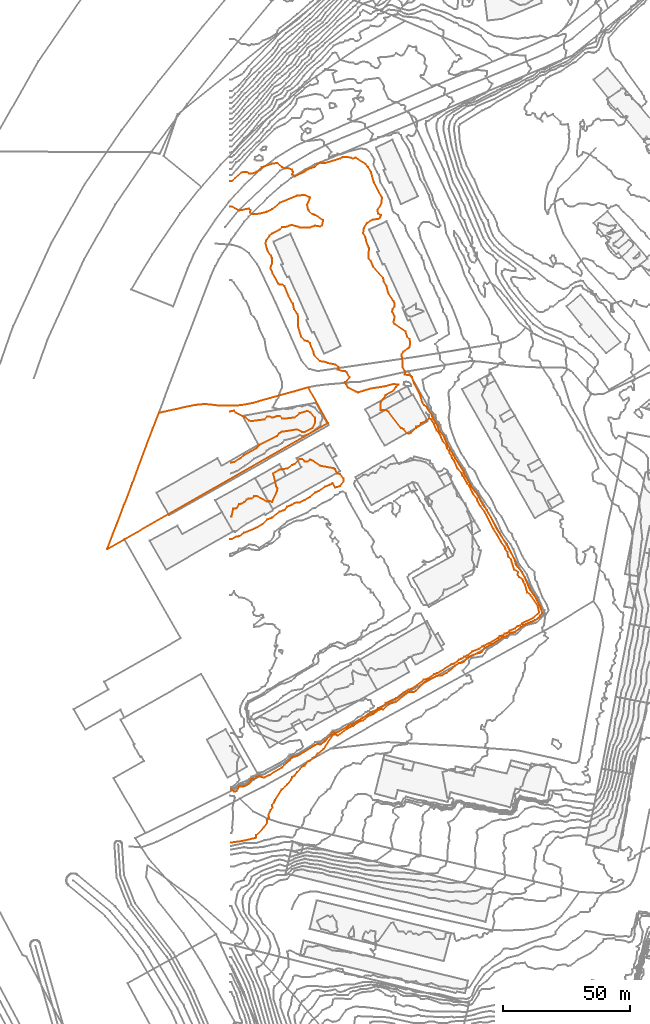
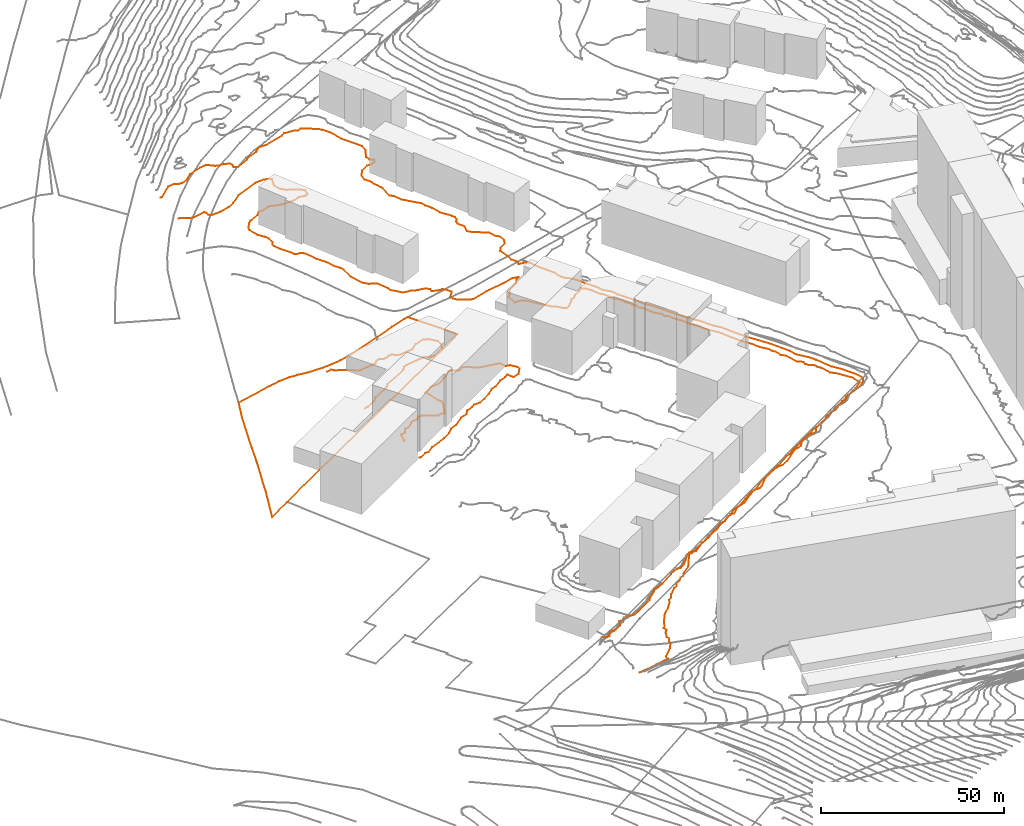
# Not in any storey, part 131 of 419: 5 proxies.
"""IFC2X3 model written with IfcOpenShell, lengths in metres."""

from ifc_helpers import new_model, entity, si_unit, frame, origin_with_axes, place, context, subcontext, project, element, save


model = new_model("IFC2X3")

# Units and contexts
model_context = context("Model", 3, precision=1e-05, world=origin_with_axes())
body_context = subcontext(model_context, "Body", "Model", "MODEL_VIEW")
ifc_project = project(units=[si_unit("AREAUNIT", "SQUARE_METRE"), si_unit("LENGTHUNIT", "METRE")], contexts=[model_context])

# Proxies
proxy_1_placement = place(None, frame((-49.1179795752, 479.9076909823, 9.6545002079), z_axis=(0.0, 0.0, 1.0), x_axis=(1.0, 0.0, 0.0)))
element("IfcBuildingElementProxy", 1, at=proxy_1_placement, Name="Cadastre 328", ObjectType="NOTDEFINED", context=body_context, shape_type="GeometricCurveSet", body=[
    entity("IfcGeometricCurveSet", [entity("IfcPolyline", [entity("IfcCartesianPoint", [6.9, 3.9400000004, 0.24]), entity("IfcCartesianPoint", [0.0, 0.0, 0.0]), entity("IfcCartesianPoint", [2.23, 5.8200000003, 0.5350996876]), entity("IfcCartesianPoint", [3.62, 9.2800000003, 0.4764995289]), entity("IfcCartesianPoint", [4.0499999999, 10.3500000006, 0.4382998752]), entity("IfcCartesianPoint", [6.61, 17.2300000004, 0.243300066]), entity("IfcCartesianPoint", [7.01, 18.1600000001, 0.1551002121]), entity("IfcCartesianPoint", [9.62, 25.0100000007, -0.2845003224]), entity("IfcCartesianPoint", [10.02, 26.0700000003, -0.2961000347]), entity("IfcCartesianPoint", [12.54, 32.8400000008, -1.2284998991]), entity("IfcCartesianPoint", [18.09, 47.7800000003, -2.1045000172]), entity("IfcCartesianPoint", [20.5699999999, 53.9400000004, -1.7440002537]), entity("IfcCartesianPoint", [31.77, 56.4100000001, -1.6053000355]), entity("IfcCartesianPoint", [35.16, 57.0800000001, -1.6221998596]), entity("IfcCartesianPoint", [38.59, 57.3700000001, -1.6308997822]), entity("IfcCartesianPoint", [41.35, 57.1200000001, -1.6233998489]), entity("IfcCartesianPoint", [44.08, 56.7600000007, -1.6125999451]), entity("IfcCartesianPoint", [48.46, 56.7000000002, -1.6107999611]), entity("IfcCartesianPoint", [51.61, 56.8300000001, -1.5487603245]), entity("IfcCartesianPoint", [54.6699999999, 57.21, -1.4915882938]), entity("IfcCartesianPoint", [57.6899999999, 57.8500000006, -1.4473162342]), entity("IfcCartesianPoint", [73.91, 62.4100000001, -0.2535403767]), entity("IfcCartesianPoint", [78.41, 63.71, -0.0105405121]), entity("IfcCartesianPoint", [79.6, 63.96, 0.0184144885]), entity("IfcCartesianPoint", [87.38, 49.9300000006, 0.1054959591]), entity("IfcCartesianPoint", [6.9, 3.9400000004, 0.24])])]),
])
proxy_2_placement = place(None, frame((-0.4079795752, 514.05769083, 8.0), z_axis=(0.0, 0.0, 1.0), x_axis=(1.0, 0.0, 0.0)))
element("IfcBuildingElementProxy", 2, at=proxy_2_placement, Name="Contour 8.0 m", ObjectType="NOTDEFINED", context=body_context, shape_type="GeometricCurveSet", body=[
    entity("IfcGeometricCurveSet", [entity("IfcPolyline", [entity("IfcCartesianPoint", [0.0, 0.0, 0.0]), entity("IfcCartesianPoint", [1.5, 0.3955553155, 0.0]), entity("IfcCartesianPoint", [4.1428566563, 1.8400001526, 0.0]), entity("IfcCartesianPoint", [5.5, 3.1399977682, 0.0]), entity("IfcCartesianPoint", [10.5, 5.804285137, 0.0]), entity("IfcCartesianPoint", [11.5, 7.0542841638, 0.0]), entity("IfcCartesianPoint", [18.5, 10.6399993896, 0.0]), entity("IfcCartesianPoint", [19.5, 11.8650007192, 0.0]), entity("IfcCartesianPoint", [20.5, 12.3105883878, 0.0]), entity("IfcCartesianPoint", [26.5, 13.2073475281, 0.0]), entity("IfcCartesianPoint", [28.5, 12.1557900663, 0.0]), entity("IfcCartesianPoint", [29.5, 12.2084211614, 0.0]), entity("IfcCartesianPoint", [32.5, 13.7542859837, 0.0]), entity("IfcCartesianPoint", [33.6041669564, 15.8400001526, 0.0]), entity("IfcCartesianPoint", [33.5645160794, 17.8400001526, 0.0]), entity("IfcCartesianPoint", [31.8478264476, 19.8400001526, 0.0]), entity("IfcCartesianPoint", [30.5, 20.5400005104, 0.0]), entity("IfcCartesianPoint", [27.5, 19.6092295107, 0.0]), entity("IfcCartesianPoint", [25.5, 17.9471436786, 0.0]), entity("IfcCartesianPoint", [21.5, 17.4696289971, 0.0]), entity("IfcCartesianPoint", [20.5, 17.5899986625, 0.0]), entity("IfcCartesianPoint", [19.5, 18.5542858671, 0.0]), entity("IfcCartesianPoint", [18.5, 18.56413831, 0.0]), entity("IfcCartesianPoint", [17.5, 18.0185724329, 0.0]), entity("IfcCartesianPoint", [16.5, 17.8722589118, 0.0]), entity("IfcCartesianPoint", [15.5, 18.3854535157, 0.0]), entity("IfcCartesianPoint", [14.5, 18.2775003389, 0.0]), entity("IfcCartesianPoint", [13.5, 17.1733334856, 0.0]), entity("IfcCartesianPoint", [8.5, 16.5066668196, 0.0]), entity("IfcCartesianPoint", [7.5, 16.6399963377, 0.0]), entity("IfcCartesianPoint", [6.1250029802, 17.8400001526, 0.0]), entity("IfcCartesianPoint", [2.2142818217, 19.8400001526, 0.0]), entity("IfcCartesianPoint", [1.5, 20.6733308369, 0.0]), entity("IfcCartesianPoint", [0.0, 20.3399876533, 0.0])])]),
])
proxy_3_placement = place(None, frame((-0.4079795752, 483.8500708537, 10.0), z_axis=(0.0, 0.0, 1.0), x_axis=(1.0, 0.0, 0.0)))
element("IfcBuildingElementProxy", 3, at=proxy_3_placement, Name="Contour 10.0 m", ObjectType="NOTDEFINED", context=body_context, shape_type="GeometricCurveSet", body=[
    entity("IfcGeometricCurveSet", [entity("IfcPolyline", [entity("IfcCartesianPoint", [0.0, 9.0476701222, 0.0]), entity("IfcCartesianPoint", [0.5, 9.0476701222, 0.0]), entity("IfcCartesianPoint", [1.2272743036, 12.0476201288, 0.0]), entity("IfcCartesianPoint", [2.5, 12.2476239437, 0.0]), entity("IfcCartesianPoint", [3.5, 13.9047610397, 0.0]), entity("IfcCartesianPoint", [4.5, 14.0476301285, 0.0]), entity("IfcCartesianPoint", [5.5, 14.6190506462, 0.0]), entity("IfcCartesianPoint", [6.5, 15.6726231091, 0.0]), entity("IfcCartesianPoint", [7.2499940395, 16.0476201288, 0.0]), entity("IfcCartesianPoint", [8.5, 16.0476326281, 0.0]), entity("IfcCartesianPoint", [9.5, 17.0476401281, 0.0]), entity("IfcCartesianPoint", [10.5, 17.124544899, 0.0]), entity("IfcCartesianPoint", [14.5, 14.847616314, 0.0]), entity("IfcCartesianPoint", [15.5, 15.190479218, 0.0]), entity("IfcCartesianPoint", [16.5, 14.7142867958, 0.0]), entity("IfcCartesianPoint", [18.5, 19.0476701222, 0.0]), entity("IfcCartesianPoint", [18.6818213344, 20.0476201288, 0.0]), entity("IfcCartesianPoint", [18.2142818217, 21.0476201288, 0.0]), entity("IfcCartesianPoint", [16.9999875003, 26.0476201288, 0.0]), entity("IfcCartesianPoint", [19.5, 27.5476256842, 0.0]), entity("IfcCartesianPoint", [22.5, 27.9567090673, 0.0]), entity("IfcCartesianPoint", [24.5, 29.3809552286, 0.0]), entity("IfcCartesianPoint", [25.5, 29.7748912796, 0.0]), entity("IfcCartesianPoint", [27.5, 31.7698417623, 0.0]), entity("IfcCartesianPoint", [28.5, 31.6476201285, 0.0]), entity("IfcCartesianPoint", [29.5, 30.8095240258, 0.0]), entity("IfcCartesianPoint", [30.5, 30.6190506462, 0.0]), entity("IfcCartesianPoint", [31.5, 31.4761896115, 0.0]), entity("IfcCartesianPoint", [32.5, 31.1385307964, 0.0]), entity("IfcCartesianPoint", [35.5, 29.0476451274, 0.0]), entity("IfcCartesianPoint", [41.0000499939, 28.0476201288, 0.0]), entity("IfcCartesianPoint", [41.5, 27.7976141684, 0.0]), entity("IfcCartesianPoint", [42.2272743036, 26.0476201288, 0.0]), entity("IfcCartesianPoint", [43.5, 25.7142867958, 0.0]), entity("IfcCartesianPoint", [44.8030315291, 24.0476201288, 0.0]), entity("IfcCartesianPoint", [44.8666664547, 23.0476201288, 0.0]), entity("IfcCartesianPoint", [43.4166646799, 21.0476201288, 0.0]), entity("IfcCartesianPoint", [41.5, 20.4285720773, 0.0]), entity("IfcCartesianPoint", [40.5, 22.2619048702, 0.0]), entity("IfcCartesianPoint", [39.5, 21.5314906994, 0.0]), entity("IfcCartesianPoint", [37.5, 20.8253967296, 0.0]), entity("IfcCartesianPoint", [35.0000083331, 19.0476201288, 0.0]), entity("IfcCartesianPoint", [33.5, 18.5314906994, 0.0]), entity("IfcCartesianPoint", [31.5, 16.7047627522, 0.0]), entity("IfcCartesianPoint", [29.5, 15.5976200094, 0.0]), entity("IfcCartesianPoint", [27.5, 14.5809531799, 0.0]), entity("IfcCartesianPoint", [25.5, 14.3809545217, 0.0]), entity("IfcCartesianPoint", [24.5, 13.6904767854, 0.0]), entity("IfcCartesianPoint", [22.5, 12.9226178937, 0.0]), entity("IfcCartesianPoint", [21.5, 11.5476145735, 0.0]), entity("IfcCartesianPoint", [19.5, 10.9299704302, 0.0]), entity("IfcCartesianPoint", [16.5, 8.5476159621, 0.0]), entity("IfcCartesianPoint", [14.5, 7.7619038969, 0.0]), entity("IfcCartesianPoint", [12.804347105, 6.0476201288, 0.0]), entity("IfcCartesianPoint", [10.5, 4.6536802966, 0.0]), entity("IfcCartesianPoint", [5.5, 2.5960067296, 0.0]), entity("IfcCartesianPoint", [3.5, 1.1809560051, 0.0]), entity("IfcCartesianPoint", [2.5, 1.1385311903, 0.0]), entity("IfcCartesianPoint", [0.5, 0.0, 0.0]), entity("IfcCartesianPoint", [0.0, 0.0, 0.0])])]),
])
proxy_4_placement = place(None, frame((-0.4079795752, 384.9293366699, 10.0), z_axis=(0.0, 0.0, 1.0), x_axis=(1.0, 0.0, 0.0)))
element("IfcBuildingElementProxy", 4, at=proxy_4_placement, Name="Contour 10.0 m", ObjectType="NOTDEFINED", context=body_context, shape_type="GeometricCurveSet", body=[
    entity("IfcGeometricCurveSet", [entity("IfcPolyline", [entity("IfcCartesianPoint", [0.0, 0.0, 0.0]), entity("IfcCartesianPoint", [0.6492542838, -0.0316456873, 0.0]), entity("IfcCartesianPoint", [1.5, -0.7916452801, 0.0]), entity("IfcCartesianPoint", [2.5, -0.5992135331, 0.0]), entity("IfcCartesianPoint", [3.5, 1.177656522, 0.0]), entity("IfcCartesianPoint", [5.5, 1.3223365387, 0.0]), entity("IfcCartesianPoint", [7.5, 2.3699291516, 0.0]), entity("IfcCartesianPoint", [8.0390073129, 2.9683543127, 0.0]), entity("IfcCartesianPoint", [8.2239584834, 3.9683543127, 0.0]), entity("IfcCartesianPoint", [8.5, 4.1891875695, 0.0]), entity("IfcCartesianPoint", [9.5, 4.2160611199, 0.0]), entity("IfcCartesianPoint", [10.3631577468, 4.9683543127, 0.0]), entity("IfcCartesianPoint", [11.5, 5.4298930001, 0.0]), entity("IfcCartesianPoint", [12.5, 4.8902290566, 0.0]), entity("IfcCartesianPoint", [13.5, 4.8372068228, 0.0]), entity("IfcCartesianPoint", [15.5, 5.8298926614, 0.0]), entity("IfcCartesianPoint", [20.5, 8.7808546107, 0.0]), entity("IfcCartesianPoint", [21.5, 9.9891881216, 0.0]), entity("IfcCartesianPoint", [23.5, 11.5560735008, 0.0]), entity("IfcCartesianPoint", [24.4714288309, 12.9683543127, 0.0]), entity("IfcCartesianPoint", [25.5, 12.988488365, 0.0]), entity("IfcCartesianPoint", [27.5, 13.8159735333, 0.0]), entity("IfcCartesianPoint", [33.5, 17.6350209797, 0.0]), entity("IfcCartesianPoint", [34.5, 18.0548929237, 0.0]), entity("IfcCartesianPoint", [35.5, 17.7875032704, 0.0]), entity("IfcCartesianPoint", [35.8469390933, 17.9683543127, 0.0]), entity("IfcCartesianPoint", [37.5, 19.1433546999, 0.0]), entity("IfcCartesianPoint", [40.5, 22.4984749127, 0.0]), entity("IfcCartesianPoint", [42.5, 22.6599430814, 0.0]), entity("IfcCartesianPoint", [46.5, 25.1545614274, 0.0]), entity("IfcCartesianPoint", [48.3550720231, 25.9683543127, 0.0]), entity("IfcCartesianPoint", [52.5, 28.4583540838, 0.0]), entity("IfcCartesianPoint", [55.5, 30.643793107, 0.0]), entity("IfcCartesianPoint", [56.5, 30.8254972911, 0.0]), entity("IfcCartesianPoint", [58.5, 32.2410816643, 0.0]), entity("IfcCartesianPoint", [60.1750001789, 32.9683543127, 0.0]), entity("IfcCartesianPoint", [61.5, 34.2023970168, 0.0]), entity("IfcCartesianPoint", [65.5, 36.1464365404, 0.0]), entity("IfcCartesianPoint", [68.5, 38.3774454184, 0.0]), entity("IfcCartesianPoint", [70.5, 39.5271778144, 0.0]), entity("IfcCartesianPoint", [71.9242435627, 39.9683543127, 0.0]), entity("IfcCartesianPoint", [76.5, 43.4031368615, 0.0]), entity("IfcCartesianPoint", [78.1521742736, 43.9683543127, 0.0]), entity("IfcCartesianPoint", [80.5, 45.5770496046, 0.0]), entity("IfcCartesianPoint", [81.7391296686, 45.9683543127, 0.0]), entity("IfcCartesianPoint", [87.5, 49.5516876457, 0.0]), entity("IfcCartesianPoint", [88.5, 49.8858801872, 0.0]), entity("IfcCartesianPoint", [90.5, 51.4254974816, 0.0]), entity("IfcCartesianPoint", [91.5, 51.7138083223, 0.0]), entity("IfcCartesianPoint", [92.5, 52.5324570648, 0.0]), entity("IfcCartesianPoint", [93.5819674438, 52.9683543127, 0.0]), entity("IfcCartesianPoint", [95.5, 54.5239098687, 0.0]), entity("IfcCartesianPoint", [98.5, 55.7042030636, 0.0]), entity("IfcCartesianPoint", [99.5, 56.5899748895, 0.0]), entity("IfcCartesianPoint", [102.5454555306, 57.9683543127, 0.0]), entity("IfcCartesianPoint", [105.8461541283, 59.9683543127, 0.0]), entity("IfcCartesianPoint", [106.5, 60.6483546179, 0.0]), entity("IfcCartesianPoint", [107.7388057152, 60.9683543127, 0.0]), entity("IfcCartesianPoint", [108.5, 61.707484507, 0.0]), entity("IfcCartesianPoint", [109.5, 61.8559943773, 0.0]), entity("IfcCartesianPoint", [110.5, 62.8468588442, 0.0]), entity("IfcCartesianPoint", [112.5, 63.7097342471, 0.0]), entity("IfcCartesianPoint", [113.5, 64.5999324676, 0.0]), entity("IfcCartesianPoint", [114.5, 64.8592634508, 0.0]), entity("IfcCartesianPoint", [115.5, 65.8383541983, 0.0]), entity("IfcCartesianPoint", [119.794118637, 67.9683543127, 0.0]), entity("IfcCartesianPoint", [122.1153834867, 69.9683543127, 0.0]), entity("IfcCartesianPoint", [121.5, 72.7918853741, 0.0]), entity("IfcCartesianPoint", [118.6636365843, 76.9683543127, 0.0]), entity("IfcCartesianPoint", [117.3888896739, 77.9683543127, 0.0]), entity("IfcCartesianPoint", [116.5, 81.0373211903, 0.0]), entity("IfcCartesianPoint", [115.8414635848, 81.9683543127, 0.0]), entity("IfcCartesianPoint", [115.6200002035, 82.9683543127, 0.0]), entity("IfcCartesianPoint", [114.1874985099, 83.9683543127, 0.0]), entity("IfcCartesianPoint", [113.5909110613, 84.9683543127, 0.0]), entity("IfcCartesianPoint", [113.7343746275, 85.9683543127, 0.0]), entity("IfcCartesianPoint", [112.2096773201, 86.9683543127, 0.0]), entity("IfcCartesianPoint", [110.9838705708, 90.9683543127, 0.0]), entity("IfcCartesianPoint", [109.9444448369, 91.9683543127, 0.0]), entity("IfcCartesianPoint", [109.5158733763, 93.9683543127, 0.0]), entity("IfcCartesianPoint", [108.745614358, 94.9683543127, 0.0]), entity("IfcCartesianPoint", [108.5123459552, 95.9683543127, 0.0]), entity("IfcCartesianPoint", [106.9565217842, 97.9683543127, 0.0]), entity("IfcCartesianPoint", [105.5, 100.8083544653, 0.0]), entity("IfcCartesianPoint", [104.0161294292, 102.9683543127, 0.0]), entity("IfcCartesianPoint", [100.5253170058, 109.9683543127, 0.0]), entity("IfcCartesianPoint", [98.9599990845, 111.9683543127, 0.0]), entity("IfcCartesianPoint", [97.7954544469, 113.9683543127, 0.0]), entity("IfcCartesianPoint", [97.5, 115.038529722, 0.0]), entity("IfcCartesianPoint", [95.9285720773, 116.9683543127, 0.0]), entity("IfcCartesianPoint", [94.5, 120.137846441, 0.0]), entity("IfcCartesianPoint", [93.6967212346, 120.9683543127, 0.0]), entity("IfcCartesianPoint", [92.5, 123.3121035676, 0.0]), entity("IfcCartesianPoint", [91.7758618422, 123.9683543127, 0.0]), entity("IfcCartesianPoint", [91.5, 125.0973862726, 0.0]), entity("IfcCartesianPoint", [89.8333298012, 126.9683543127, 0.0]), entity("IfcCartesianPoint", [88.5, 130.0553107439, 0.0]), entity("IfcCartesianPoint", [87.6599998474, 130.9683543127, 0.0]), entity("IfcCartesianPoint", [87.5, 132.056588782, 0.0]), entity("IfcCartesianPoint", [86.7250000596, 132.9683543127, 0.0]), entity("IfcCartesianPoint", [86.5462964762, 133.9683543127, 0.0]), entity("IfcCartesianPoint", [85.6323531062, 134.9683543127, 0.0]), entity("IfcCartesianPoint", [85.5441179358, 135.9683543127, 0.0]), entity("IfcCartesianPoint", [83.9250005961, 137.9683543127, 0.0]), entity("IfcCartesianPoint", [82.6047616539, 140.9683543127, 0.0]), entity("IfcCartesianPoint", [81.6261263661, 141.9683543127, 0.0]), entity("IfcCartesianPoint", [80.5, 144.6025014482, 0.0]), entity("IfcCartesianPoint", [79.5, 146.1588302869, 0.0]), entity("IfcCartesianPoint", [78.5, 146.7683504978, 0.0]), entity("IfcCartesianPoint", [77.5, 145.801684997, 0.0]), entity("IfcCartesianPoint", [75.5, 144.7683504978, 0.0]), entity("IfcCartesianPoint", [74.5, 143.6350156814, 0.0]), entity("IfcCartesianPoint", [73.5, 143.4683043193, 0.0]), entity("IfcCartesianPoint", [73.3888865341, 142.9683543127, 0.0]), entity("IfcCartesianPoint", [71.5, 141.0553126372, 0.0]), entity("IfcCartesianPoint", [70.5, 140.6205278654, 0.0]), entity("IfcCartesianPoint", [69.7727256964, 140.9683543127, 0.0]), entity("IfcCartesianPoint", [68.5, 142.4683043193, 0.0]), entity("IfcCartesianPoint", [67.4999666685, 142.9683543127, 0.0]), entity("IfcCartesianPoint", [62.5, 149.3016876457, 0.0]), entity("IfcCartesianPoint", [61.5, 149.9682543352, 0.0]), entity("IfcCartesianPoint", [59.4999000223, 149.9683543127, 0.0]), entity("IfcCartesianPoint", [59.3888865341, 152.9683543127, 0.0]), entity("IfcCartesianPoint", [60.5, 154.2350214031, 0.0]), entity("IfcCartesianPoint", [61.3666641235, 155.9683543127, 0.0]), entity("IfcCartesianPoint", [64.5, 157.7183543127, 0.0]), entity("IfcCartesianPoint", [65.5, 159.1683581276, 0.0]), entity("IfcCartesianPoint", [66.4999750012, 159.9683543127, 0.0]), entity("IfcCartesianPoint", [64.5, 160.3145084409, 0.0]), entity("IfcCartesianPoint", [61.5, 159.4445465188, 0.0]), entity("IfcCartesianPoint", [55.5, 158.4683497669, 0.0]), entity("IfcCartesianPoint", [50.5, 156.9683476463, 0.0]), entity("IfcCartesianPoint", [49.5, 157.3254976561, 0.0]), entity("IfcCartesianPoint", [46.5, 158.9682543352, 0.0]), entity("IfcCartesianPoint", [45.9000076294, 159.9683543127, 0.0]), entity("IfcCartesianPoint", [45.4999000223, 160.9683543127, 0.0]), entity("IfcCartesianPoint", [47.2000009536, 162.9683543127, 0.0]), entity("IfcCartesianPoint", [45.9999500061, 164.9683543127, 0.0]), entity("IfcCartesianPoint", [45.5, 165.3016876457, 0.0]), entity("IfcCartesianPoint", [44.5, 165.3016876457, 0.0]), entity("IfcCartesianPoint", [42.4999666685, 165.9683543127, 0.0]), entity("IfcCartesianPoint", [42.8333333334, 166.9683543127, 0.0]), entity("IfcCartesianPoint", [41.4999666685, 167.9683543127, 0.0]), entity("IfcCartesianPoint", [38.5, 168.5516856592, 0.0]), entity("IfcCartesianPoint", [37.7857181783, 168.9683543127, 0.0]), entity("IfcCartesianPoint", [35.5, 169.2760460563, 0.0]), entity("IfcCartesianPoint", [33.0999984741, 171.9683543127, 0.0]), entity("IfcCartesianPoint", [32.9516133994, 172.9683543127, 0.0]), entity("IfcCartesianPoint", [31.5, 176.4540682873, 0.0]), entity("IfcCartesianPoint", [30.5, 177.2064504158, 0.0]), entity("IfcCartesianPoint", [29.5, 177.468350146, 0.0]), entity("IfcCartesianPoint", [28.0799999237, 178.9683543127, 0.0]), entity("IfcCartesianPoint", [26.8793108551, 182.9683543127, 0.0]), entity("IfcCartesianPoint", [26.9, 186.9683543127, 0.0]), entity("IfcCartesianPoint", [26.5624995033, 187.9683543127, 0.0]), entity("IfcCartesianPoint", [25.2714290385, 189.9683543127, 0.0]), entity("IfcCartesianPoint", [24.7903226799, 191.9683543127, 0.0]), entity("IfcCartesianPoint", [23.0600013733, 194.9683543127, 0.0]), entity("IfcCartesianPoint", [21.5, 198.8969242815, 0.0]), entity("IfcCartesianPoint", [20.5, 199.635019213, 0.0]), entity("IfcCartesianPoint", [19.5, 199.6350209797, 0.0]), entity("IfcCartesianPoint", [19.0294124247, 199.9683543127, 0.0]), entity("IfcCartesianPoint", [16.8548392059, 203.9683543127, 0.0]), entity("IfcCartesianPoint", [15.9999975, 205.9683543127, 0.0]), entity("IfcCartesianPoint", [16.0862072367, 206.9683543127, 0.0]), entity("IfcCartesianPoint", [16.6199989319, 207.9683543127, 0.0]), entity("IfcCartesianPoint", [16.5, 209.968343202, 0.0]), entity("IfcCartesianPoint", [16.1470593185, 210.9683543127, 0.0]), entity("IfcCartesianPoint", [14.7580647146, 212.9683543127, 0.0]), entity("IfcCartesianPoint", [13.9666675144, 215.9683543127, 0.0]), entity("IfcCartesianPoint", [14.2500008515, 216.9683543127, 0.0]), entity("IfcCartesianPoint", [15.5769247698, 218.9683543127, 0.0]), entity("IfcCartesianPoint", [16.5, 219.7425484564, 0.0]), entity("IfcCartesianPoint", [19.5, 221.2292251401, 0.0]), entity("IfcCartesianPoint", [20.5, 222.226419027, 0.0]), entity("IfcCartesianPoint", [22.5, 222.4389418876, 0.0]), entity("IfcCartesianPoint", [23.5, 222.9683590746, 0.0]), entity("IfcCartesianPoint", [24.5, 223.0483561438, 0.0]), entity("IfcCartesianPoint", [27.5, 222.182639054, 0.0]), entity("IfcCartesianPoint", [31.5, 222.1683581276, 0.0]), entity("IfcCartesianPoint", [33.5, 222.8254952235, 0.0]), entity("IfcCartesianPoint", [35.5, 222.5239110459, 0.0]), entity("IfcCartesianPoint", [36.2999961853, 222.9683543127, 0.0]), entity("IfcCartesianPoint", [36.7500059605, 224.9683543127, 0.0]), entity("IfcCartesianPoint", [33.5, 227.1112143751, 0.0]), entity("IfcCartesianPoint", [32.5, 227.3801170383, 0.0]), entity("IfcCartesianPoint", [30.9166686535, 228.9683543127, 0.0]), entity("IfcCartesianPoint", [30.3999980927, 230.9683543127, 0.0]), entity("IfcCartesianPoint", [31.4999500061, 233.9683543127, 0.0]), entity("IfcCartesianPoint", [29.5, 234.9683343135, 0.0]), entity("IfcCartesianPoint", [26.5, 234.7183513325, 0.0]), entity("IfcCartesianPoint", [19.7999990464, 231.9683543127, 0.0]), entity("IfcCartesianPoint", [16.5, 229.3529708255, 0.0]), entity("IfcCartesianPoint", [14.5, 228.3254976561, 0.0]), entity("IfcCartesianPoint", [11.5, 227.5683562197, 0.0]), entity("IfcCartesianPoint", [8.5, 227.3683619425, 0.0]), entity("IfcCartesianPoint", [7.9000076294, 227.9683543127, 0.0]), entity("IfcCartesianPoint", [7.9999875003, 228.9683543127, 0.0]), entity("IfcCartesianPoint", [7.5, 229.6350156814, 0.0]), entity("IfcCartesianPoint", [3.5, 228.8433513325, 0.0]), entity("IfcCartesianPoint", [0.5, 230.4683043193, 0.0]), entity("IfcCartesianPoint", [0.0, 230.4683043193, 0.0])])]),
])
proxy_5_placement = place(None, frame((-0.4079795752, 363.9776915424, 11.0), z_axis=(0.0, 0.0, 1.0), x_axis=(1.0, 0.0, 0.0)))
element("IfcBuildingElementProxy", 5, at=proxy_5_placement, Name="Contour 11.0 m", ObjectType="NOTDEFINED", context=body_context, shape_type="GeometricCurveSet", body=[
    entity("IfcGeometricCurveSet", [entity("IfcPolyline", [entity("IfcCartesianPoint", [0.0, 0.0, 0.0]), entity("IfcCartesianPoint", [4.5, 0.6164278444, 0.0]), entity("IfcCartesianPoint", [10.2777730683, 1.9199994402, 0.0]), entity("IfcCartesianPoint", [10.2999961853, 2.9199994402, 0.0]), entity("IfcCartesianPoint", [13.2499970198, 5.9199994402, 0.0]), entity("IfcCartesianPoint", [14.6111134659, 7.9199994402, 0.0]), entity("IfcCartesianPoint", [14.6666693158, 8.9199994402, 0.0]), entity("IfcCartesianPoint", [15.2777730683, 9.9199994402, 0.0]), entity("IfcCartesianPoint", [15.1250029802, 10.9199994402, 0.0]), entity("IfcCartesianPoint", [15.9545446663, 12.9199994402, 0.0]), entity("IfcCartesianPoint", [16.7222269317, 13.9199994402, 0.0]), entity("IfcCartesianPoint", [16.4999875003, 14.9199994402, 0.0]), entity("IfcCartesianPoint", [17.3749970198, 15.9199994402, 0.0]), entity("IfcCartesianPoint", [17.6666693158, 16.9199994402, 0.0]), entity("IfcCartesianPoint", [20.2999961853, 20.9199994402, 0.0]), entity("IfcCartesianPoint", [22.5, 22.9200194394, 0.0]), entity("IfcCartesianPoint", [24.0999923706, 24.9199994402, 0.0]), entity("IfcCartesianPoint", [24.499983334, 25.9199994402, 0.0]), entity("IfcCartesianPoint", [25.5, 26.5866608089, 0.0]), entity("IfcCartesianPoint", [26.3571409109, 27.9199994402, 0.0]), entity("IfcCartesianPoint", [28.5, 30.0628585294, 0.0]), entity("IfcCartesianPoint", [29.5, 30.4914299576, 0.0]), entity("IfcCartesianPoint", [30.5, 32.0628585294, 0.0]), entity("IfcCartesianPoint", [31.5, 32.3485689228, 0.0]), entity("IfcCartesianPoint", [32.5, 33.5199918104, 0.0]), entity("IfcCartesianPoint", [33.5, 33.9200244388, 0.0]), entity("IfcCartesianPoint", [34.5, 35.1200032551, 0.0]), entity("IfcCartesianPoint", [36.9285694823, 36.9199994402, 0.0]), entity("IfcCartesianPoint", [40.5, 42.6042103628, 0.0]), entity("IfcCartesianPoint", [41.5, 42.7621057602, 0.0]), entity("IfcCartesianPoint", [42.5, 42.2533327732, 0.0]), entity("IfcCartesianPoint", [45.933961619, 44.9199994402, 0.0]), entity("IfcCartesianPoint", [48.5, 46.1636969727, 0.0]), entity("IfcCartesianPoint", [51.1451607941, 47.9199994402, 0.0]), entity("IfcCartesianPoint", [52.5, 48.3404538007, 0.0]), entity("IfcCartesianPoint", [54.5, 49.9704199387, 0.0]), entity("IfcCartesianPoint", [56.5, 50.8366661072, 0.0]), entity("IfcCartesianPoint", [58.5, 52.3165512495, 0.0]), entity("IfcCartesianPoint", [59.5, 52.7879244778, 0.0]), entity("IfcCartesianPoint", [60.5, 52.6276922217, 0.0]), entity("IfcCartesianPoint", [62.5, 54.6283328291, 0.0]), entity("IfcCartesianPoint", [65.5, 55.71999944, 0.0]), entity("IfcCartesianPoint", [70.5, 59.5218509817, 0.0]), entity("IfcCartesianPoint", [72.5, 59.6065665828, 0.0]), entity("IfcCartesianPoint", [73.5, 60.1422214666, 0.0]), entity("IfcCartesianPoint", [76.5, 63.2718514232, 0.0]), entity("IfcCartesianPoint", [81.5, 65.8851160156, 0.0]), entity("IfcCartesianPoint", [83.5, 66.1123076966, 0.0]), entity("IfcCartesianPoint", [85.5, 67.1036733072, 0.0]), entity("IfcCartesianPoint", [90.2580650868, 70.9199994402, 0.0]), entity("IfcCartesianPoint", [91.5, 71.0771418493, 0.0]), entity("IfcCartesianPoint", [92.5, 71.5751721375, 0.0]), entity("IfcCartesianPoint", [93.4873414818, 72.9199994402, 0.0]), entity("IfcCartesianPoint", [94.5, 73.534034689, 0.0]), entity("IfcCartesianPoint", [97.5, 74.7934166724, 0.0]), entity("IfcCartesianPoint", [98.5303037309, 74.9199994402, 0.0]), entity("IfcCartesianPoint", [99.5, 75.4623716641, 0.0]), entity("IfcCartesianPoint", [100.5, 77.0077190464, 0.0]), entity("IfcCartesianPoint", [103.5, 78.4738457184, 0.0]), entity("IfcCartesianPoint", [107.5, 81.1144437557, 0.0]), entity("IfcCartesianPoint", [109.5, 81.7506445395, 0.0]), entity("IfcCartesianPoint", [110.5, 82.8752230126, 0.0]), entity("IfcCartesianPoint", [112.5, 83.2572088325, 0.0]), entity("IfcCartesianPoint", [115.6566266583, 85.9199994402, 0.0]), entity("IfcCartesianPoint", [120.5, 87.8712189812, 0.0]), entity("IfcCartesianPoint", [122.5, 89.6458057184, 0.0]), entity("IfcCartesianPoint", [123.296460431, 90.9199994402, 0.0]), entity("IfcCartesianPoint", [122.2637794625, 93.9199994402, 0.0]), entity("IfcCartesianPoint", [120.0567008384, 97.9199994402, 0.0]), entity("IfcCartesianPoint", [118.5156253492, 99.9199994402, 0.0]), entity("IfcCartesianPoint", [116.5, 104.7917939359, 0.0]), entity("IfcCartesianPoint", [115.2611942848, 106.9199994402, 0.0]), entity("IfcCartesianPoint", [112.9202900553, 109.9199994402, 0.0]), entity("IfcCartesianPoint", [112.4130435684, 111.9199994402, 0.0]), entity("IfcCartesianPoint", [109.3412692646, 117.9199994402, 0.0]), entity("IfcCartesianPoint", [105.4239133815, 123.9199994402, 0.0]), entity("IfcCartesianPoint", [101.5, 131.4809741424, 0.0]), entity("IfcCartesianPoint", [100.2849462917, 132.9199994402, 0.0]), entity("IfcCartesianPoint", [98.0875001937, 136.9199994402, 0.0]), entity("IfcCartesianPoint", [95.2432432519, 140.9199994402, 0.0]), entity("IfcCartesianPoint", [92.4454541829, 145.9199994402, 0.0]), entity("IfcCartesianPoint", [92.1347824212, 146.9199994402, 0.0]), entity("IfcCartesianPoint", [88.9531250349, 151.9199994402, 0.0]), entity("IfcCartesianPoint", [85.1062993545, 158.9199994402, 0.0]), entity("IfcCartesianPoint", [84.3, 160.9199994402, 0.0]), entity("IfcCartesianPoint", [82.5263155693, 162.9199994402, 0.0]), entity("IfcCartesianPoint", [81.9036696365, 164.9199994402, 0.0]), entity("IfcCartesianPoint", [79.9999992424, 167.9199994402, 0.0]), entity("IfcCartesianPoint", [79.5, 169.2836353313, 0.0]), entity("IfcCartesianPoint", [77.7405058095, 171.9199994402, 0.0]), entity("IfcCartesianPoint", [76.5963854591, 172.9199994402, 0.0]), entity("IfcCartesianPoint", [75.9444440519, 173.9199994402, 0.0]), entity("IfcCartesianPoint", [75.0465115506, 176.9199994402, 0.0]), entity("IfcCartesianPoint", [72.968084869, 180.9199994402, 0.0]), entity("IfcCartesianPoint", [71.8249998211, 183.9199994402, 0.0]), entity("IfcCartesianPoint", [71.5, 184.384286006, 0.0]), entity("IfcCartesianPoint", [70.5, 184.7324985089, 0.0]), entity("IfcCartesianPoint", [68.9000076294, 184.9199994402, 0.0]), entity("IfcCartesianPoint", [69.2142818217, 185.9199994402, 0.0]), entity("IfcCartesianPoint", [68.1666666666, 187.9199994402, 0.0]), entity("IfcCartesianPoint", [68.1666613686, 189.9199994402, 0.0]), entity("IfcCartesianPoint", [67.7000038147, 192.9199994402, 0.0]), entity("IfcCartesianPoint", [68.5, 194.1422263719, 0.0]), entity("IfcCartesianPoint", [70.5, 195.4200077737, 0.0]), entity("IfcCartesianPoint", [70.8000009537, 195.9199994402, 0.0]), entity("IfcCartesianPoint", [71.1206907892, 196.9199994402, 0.0]), entity("IfcCartesianPoint", [70.9571431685, 198.9199994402, 0.0]), entity("IfcCartesianPoint", [69.9999958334, 199.9199994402, 0.0]), entity("IfcCartesianPoint", [69.3095240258, 201.9199994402, 0.0]), entity("IfcCartesianPoint", [65.0555567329, 204.9199994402, 0.0]), entity("IfcCartesianPoint", [64.5, 205.634286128, 0.0]), entity("IfcCartesianPoint", [65.0250005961, 207.9199994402, 0.0]), entity("IfcCartesianPoint", [64.0400009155, 209.9199994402, 0.0]), entity("IfcCartesianPoint", [64.214283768, 210.9199994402, 0.0]), entity("IfcCartesianPoint", [64.9000015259, 211.9199994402, 0.0]), entity("IfcCartesianPoint", [64.999998, 212.9199994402, 0.0]), entity("IfcCartesianPoint", [64.6590903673, 213.9199994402, 0.0]), entity("IfcCartesianPoint", [62.5943400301, 216.9199994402, 0.0]), entity("IfcCartesianPoint", [61.7894726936, 219.9199994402, 0.0]), entity("IfcCartesianPoint", [60.6960790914, 221.9199994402, 0.0]), entity("IfcCartesianPoint", [60.5, 223.134286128, 0.0]), entity("IfcCartesianPoint", [56.5, 227.5866661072, 0.0]), entity("IfcCartesianPoint", [55.5793653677, 229.9199994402, 0.0]), entity("IfcCartesianPoint", [54.6666671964, 230.9199994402, 0.0]), entity("IfcCartesianPoint", [54.83898264, 234.9199994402, 0.0]), entity("IfcCartesianPoint", [53.6636365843, 237.9199994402, 0.0]), entity("IfcCartesianPoint", [53.584746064, 238.9199994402, 0.0]), entity("IfcCartesianPoint", [52.5526311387, 240.9199994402, 0.0]), entity("IfcCartesianPoint", [52.8488368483, 242.9199994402, 0.0]), entity("IfcCartesianPoint", [54.0555551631, 244.9199994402, 0.0]), entity("IfcCartesianPoint", [56.5, 246.232499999, 0.0]), entity("IfcCartesianPoint", [58.5, 246.4200027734, 0.0]), entity("IfcCartesianPoint", [59.28947342, 246.9199994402, 0.0]), entity("IfcCartesianPoint", [59.5555567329, 247.9199994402, 0.0]), entity("IfcCartesianPoint", [58.5, 248.5199994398, 0.0]), entity("IfcCartesianPoint", [58.2083329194, 249.9199994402, 0.0]), entity("IfcCartesianPoint", [59.8829791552, 252.9199994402, 0.0]), entity("IfcCartesianPoint", [59.9500001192, 254.9199994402, 0.0]), entity("IfcCartesianPoint", [56.7894726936, 260.9199994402, 0.0]), entity("IfcCartesianPoint", [55.6636365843, 264.9199994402, 0.0]), entity("IfcCartesianPoint", [54.5, 267.0353833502, 0.0]), entity("IfcCartesianPoint", [53.5, 268.1699994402, 0.0]), entity("IfcCartesianPoint", [49.5, 270.6342812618, 0.0]), entity("IfcCartesianPoint", [48.5, 270.2141180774, 0.0]), entity("IfcCartesianPoint", [47.5, 270.7533301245, 0.0]), entity("IfcCartesianPoint", [44.5, 270.9477778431, 0.0]), entity("IfcCartesianPoint", [43.5, 270.3574979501, 0.0]), entity("IfcCartesianPoint", [37.5, 268.5658329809, 0.0]), entity("IfcCartesianPoint", [35.5, 268.6400006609, 0.0]), entity("IfcCartesianPoint", [34.5, 268.1018172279, 0.0]), entity("IfcCartesianPoint", [33.5, 267.08666535, 0.0]), entity("IfcCartesianPoint", [30.5, 266.0152374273, 0.0]), entity("IfcCartesianPoint", [29.5, 265.2030177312, 0.0]), entity("IfcCartesianPoint", [25.5, 263.2950001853, 0.0]), entity("IfcCartesianPoint", [24.5, 263.9199744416, 0.0]), entity("IfcCartesianPoint", [24.8333298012, 264.9199994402, 0.0]), entity("IfcCartesianPoint", [24.5, 265.9199661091, 0.0]), entity("IfcCartesianPoint", [22.5, 266.5866696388, 0.0]), entity("IfcCartesianPoint", [21.5, 266.4199744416, 0.0]), entity("IfcCartesianPoint", [20.5, 266.9199744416, 0.0]), entity("IfcCartesianPoint", [18.5, 268.5866608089, 0.0]), entity("IfcCartesianPoint", [16.5, 268.2533327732, 0.0]), entity("IfcCartesianPoint", [12.5000124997, 266.9199994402, 0.0]), entity("IfcCartesianPoint", [10.5, 265.082162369, 0.0]), entity("IfcCartesianPoint", [8.5, 264.3317649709, 0.0]), entity("IfcCartesianPoint", [7.5, 264.4755546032, 0.0]), entity("IfcCartesianPoint", [6.5, 265.0504333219, 0.0]), entity("IfcCartesianPoint", [4.5, 264.848569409, 0.0]), entity("IfcCartesianPoint", [0.5, 261.3834132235, 0.0]), entity("IfcCartesianPoint", [0.0, 261.3834132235, 0.0])])]),
])

save(model, "model.ifc")
